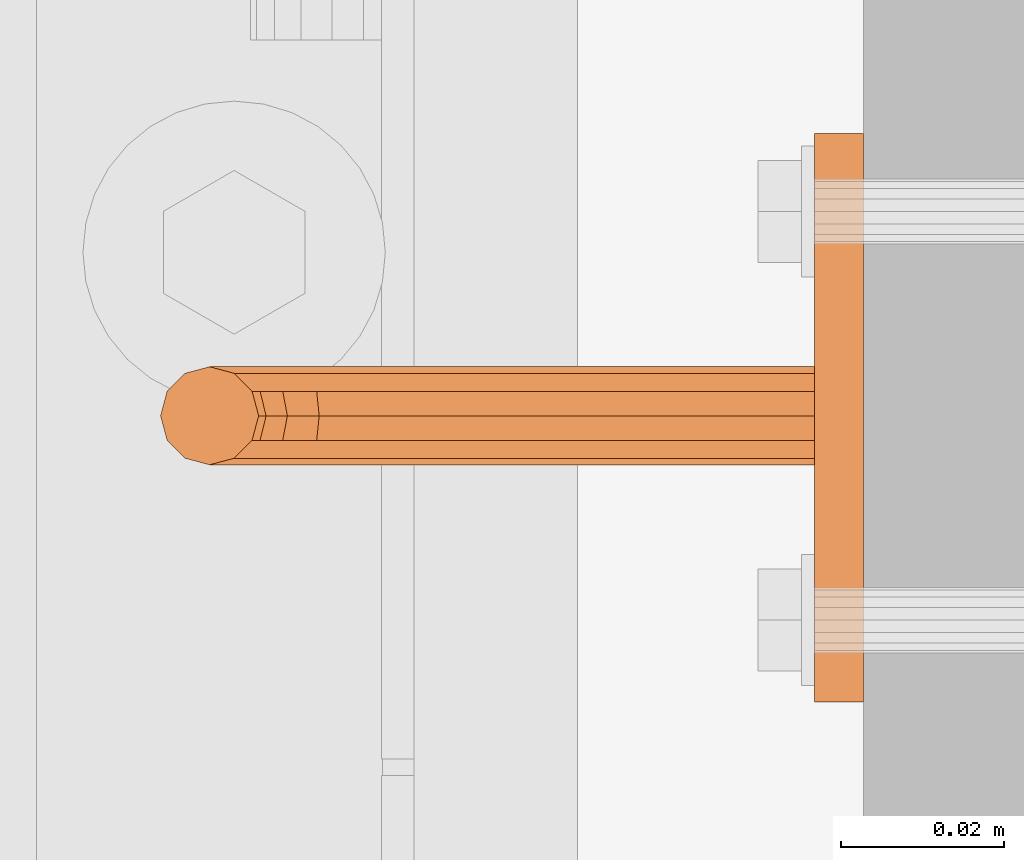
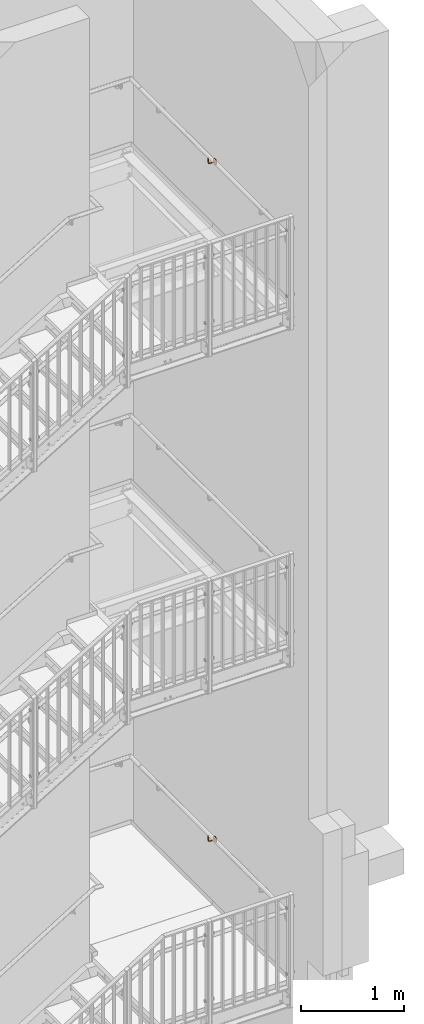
# One storey, part 389 of 410: 2 proxies.
"""IFC2X3 building model written with IfcOpenShell, lengths in millimetres."""

from ifc_helpers import new_model, entity, si_unit, converted_unit, origin_with_axes, place, context, project, spatial, faceted_brep, element, save


model = new_model("IFC2X3")

# Units and contexts
model_context = context("Model", 3, precision=1e-09, world=origin_with_axes())
ifc_project = project(units=[si_unit("LENGTHUNIT", "METRE", prefix="MILLI"), si_unit("AREAUNIT", "SQUARE_METRE"), si_unit("VOLUMEUNIT", "CUBIC_METRE"), converted_unit("PLANEANGLEUNIT", "DEGREE", entity("IfcPlaneAngleMeasure", 0.01745329), si_unit("PLANEANGLEUNIT", "RADIAN"), dimensions=[0, 0, 0, 0, 0, 0, 0])], contexts=[model_context])

# Site, building, storey
site_placement = place(None, origin_with_axes())
site = spatial("IfcSite", under=ifc_project, at=site_placement, Name="mKR Teilneubau & Sanierung BA1 - Ostfildern", CompositionType="ELEMENT")
building_placement = place(site_placement, origin_with_axes())
building = spatial("IfcBuilding", under=site, at=building_placement, Name="Struktur 1", CompositionType="ELEMENT")
storey_placement = place(building_placement, origin_with_axes())
storey = spatial("IfcBuildingStorey", under=building, at=storey_placement, Name="Default Storey", CompositionType="ELEMENT", Elevation=0.0)

# Proxies
proxy_1_placement = place(None, origin_with_axes())
element("IfcBuildingElementProxy", 1, at=proxy_1_placement, inside=storey, ObjectType="-", context=model_context, shape_type="Brep", body=[
    faceted_brep([(3289.999216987, 17051.680638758, 6659.725), (3283.999216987, 17051.680638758, 6659.725), (3283.999216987, 17052.250030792, 6657.6), (3289.999216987, 17052.250030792, 6657.6), (3283.999216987, 17003.856845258, 6686.900826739), (3283.999216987, 17014.408038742, 6691.529009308), (3283.999216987, 17025.890307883, 6692.480457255), (3283.999216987, 17037.059370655, 6689.652066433), (3283.999216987, 17046.704885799, 6683.350336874), (3283.999216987, 17053.781612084, 6674.258158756), (3283.999216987, 17057.522676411, 6663.36081066), (3283.999216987, 17057.522676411, 6651.83918934), (3283.999216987, 17053.781612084, 6640.941841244), (3283.999216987, 17046.704885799, 6631.849663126), (3283.999216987, 17037.059370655, 6625.547933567), (3283.999216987, 17025.890307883, 6622.719542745), (3283.999216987, 17014.408038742, 6623.670990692), (3283.999216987, 17003.856845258, 6628.299173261), (3283.999216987, 16995.380112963, 6636.102555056), (3283.999216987, 16989.896427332, 6646.235518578), (3283.999216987, 16988.000030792, 6657.6), (3283.999216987, 16989.896427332, 6668.964481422), (3283.999216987, 16995.380112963, 6679.097444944), (3283.999216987, 17050.125030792, 6661.280607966), (3283.999216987, 17048.000030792, 6661.85), (3283.999216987, 17045.875030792, 6661.280607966), (3283.999216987, 17044.319422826, 6659.725), (3283.999216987, 17043.750030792, 6657.6), (3283.999216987, 17044.319422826, 6655.475), (3283.999216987, 17045.875030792, 6653.919392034), (3283.999216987, 17048.000030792, 6653.35), (3283.999216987, 17050.125030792, 6653.919392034), (3283.999216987, 17051.680638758, 6655.475), (3283.999216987, 17001.680638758, 6659.725), (3283.999216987, 17000.125030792, 6661.280607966), (3283.999216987, 16998.000030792, 6661.85), (3283.999216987, 16995.875030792, 6661.280607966), (3283.999216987, 16994.319422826, 6659.725), (3283.999216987, 16993.750030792, 6657.6), (3283.999216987, 16994.319422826, 6655.475), (3283.999216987, 16995.875030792, 6653.919392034), (3283.999216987, 16998.000030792, 6653.35), (3283.999216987, 17000.125030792, 6653.919392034), (3283.999216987, 17001.680638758, 6655.475), (3283.999216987, 17002.250030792, 6657.6), (3289.999216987, 17050.125030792, 6661.280607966), (3289.999216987, 17003.856845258, 6628.299173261), (3289.999216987, 17014.408038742, 6623.670990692), (3289.999216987, 17025.890307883, 6622.719542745), (3289.999216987, 17037.059370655, 6625.547933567), (3289.999216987, 17046.704885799, 6631.849663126), (3289.999216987, 17053.781612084, 6640.941841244), (3289.999216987, 17057.522676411, 6651.83918934), (3289.999216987, 17057.522676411, 6663.36081066), (3289.999216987, 17053.781612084, 6674.258158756), (3289.999216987, 17046.704885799, 6683.350336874), (3289.999216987, 17037.059370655, 6689.652066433), (3289.999216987, 17025.890307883, 6692.480457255), (3289.999216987, 17014.408038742, 6691.529009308), (3289.999216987, 17003.856845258, 6686.900826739), (3289.999216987, 16995.380112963, 6679.097444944), (3289.999216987, 16989.896427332, 6668.964481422), (3289.999216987, 16988.000030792, 6657.6), (3289.999216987, 16989.896427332, 6646.235518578), (3289.999216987, 16995.380112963, 6636.102555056), (3289.999216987, 17051.680638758, 6655.475), (3289.999216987, 17050.125030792, 6653.919392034), (3289.999216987, 17048.000030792, 6653.35), (3289.999216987, 17045.875030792, 6653.919392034), (3289.999216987, 17044.319422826, 6655.475), (3289.999216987, 17043.750030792, 6657.6), (3289.999216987, 17044.319422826, 6659.725), (3289.999216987, 17045.875030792, 6661.280607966), (3289.999216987, 17048.000030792, 6661.85), (3289.999216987, 17001.680638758, 6655.475), (3289.999216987, 17000.125030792, 6653.919392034), (3289.999216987, 16998.000030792, 6653.35), (3289.999216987, 16995.875030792, 6653.919392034), (3289.999216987, 16994.319422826, 6655.475), (3289.999216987, 16993.750030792, 6657.6), (3289.999216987, 16994.319422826, 6659.725), (3289.999216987, 16995.875030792, 6661.280607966), (3289.999216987, 16998.000030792, 6661.85), (3289.999216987, 17000.125030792, 6661.280607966), (3289.999216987, 17001.680638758, 6659.725), (3289.999216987, 17002.250030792, 6657.6)], [[[0, 1, 2, 3]], [[4, 5, 6, 7, 8, 9, 10, 11, 12, 13, 14, 15, 16, 17, 18, 19, 20, 21, 22], [2, 1, 23, 24, 25, 26, 27, 28, 29, 30, 31, 32], [33, 34, 35, 36, 37, 38, 39, 40, 41, 42, 43, 44]], [[1, 0, 45, 23]], [[46, 47, 48, 49, 50, 51, 52, 53, 54, 55, 56, 57, 58, 59, 60, 61, 62, 63, 64], [0, 3, 65, 66, 67, 68, 69, 70, 71, 72, 73, 45], [74, 75, 76, 77, 78, 79, 80, 81, 82, 83, 84, 85]], [[3, 2, 32, 65]], [[10, 53, 52, 11]], [[65, 32, 31, 66]], [[23, 45, 73, 24]], [[53, 10, 9, 54]], [[66, 31, 30, 67]], [[11, 52, 51, 12]], [[24, 73, 72, 25]], [[8, 55, 54, 9]], [[67, 30, 29, 68]], [[55, 8, 7, 56]], [[50, 13, 12, 51]], [[25, 72, 71, 26]], [[13, 50, 49, 14]], [[68, 29, 28, 69]], [[26, 71, 70, 27]], [[56, 7, 6, 57]], [[69, 28, 27, 70]], [[14, 49, 48, 15]], [[57, 6, 5, 58]], [[44, 85, 84, 33]], [[15, 48, 47, 16]], [[85, 44, 43, 74]], [[33, 84, 83, 34]], [[58, 5, 4, 59]], [[16, 47, 46, 17]], [[74, 43, 42, 75]], [[34, 83, 82, 35]], [[59, 4, 22, 60]], [[17, 46, 64, 18]], [[75, 42, 41, 76]], [[35, 82, 81, 36]], [[60, 22, 21, 61]], [[18, 64, 63, 19]], [[76, 41, 40, 77]], [[20, 62, 61, 21]], [[36, 81, 80, 37]], [[62, 20, 19, 63]], [[77, 40, 39, 78]], [[37, 80, 79, 38]], [[78, 39, 38, 79]]]),
    faceted_brep([(3227.999216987, 17017.000030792, 6657.6), (3283.999216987, 17017.000030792, 6657.6), (3283.999216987, 17017.803878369, 6660.6), (3227.999216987, 17017.803878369, 6660.6), (3206.999216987, 17017.803878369, 6675.6), (3206.999216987, 17017.803878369, 6732.6), (3204.803064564, 17020.000030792, 6732.6), (3204.803064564, 17020.000030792, 6675.6), (3209.999216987, 17017.000030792, 6675.6), (3209.999216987, 17017.000030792, 6732.6), (3206.56876653, 17020.000030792, 6666.723216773), (3208.597746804, 17017.803878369, 6667.56364792), (3283.999216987, 17026.000030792, 6652.403847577), (3283.999216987, 17028.196183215, 6654.6), (3283.999216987, 17029.000030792, 6657.6), (3283.999216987, 17028.196183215, 6660.6), (3283.999216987, 17026.000030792, 6662.796152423), (3283.999216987, 17023.000030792, 6663.6), (3283.999216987, 17020.000030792, 6662.796152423), (3283.999216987, 17017.803878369, 6654.6), (3283.999216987, 17020.000030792, 6652.403847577), (3283.999216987, 17023.000030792, 6651.6), (3227.999216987, 17017.803878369, 6654.6), (3222.258965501, 17017.803878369, 6661.741807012), (3221.110915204, 17017.000030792, 6658.970168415), (3215.195369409, 17026.000030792, 6732.6), (3212.999216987, 17028.196183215, 6732.6), (3209.999216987, 17029.000030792, 6732.6), (3206.999216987, 17028.196183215, 6732.6), (3204.803064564, 17026.000030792, 6732.6), (3203.999216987, 17023.000030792, 6732.6), (3212.999216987, 17017.803878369, 6732.6), (3215.195369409, 17020.000030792, 6732.6), (3215.999216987, 17023.000030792, 6732.6), (3211.369385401, 17017.000030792, 6668.711698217), (3213.149974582, 17017.803878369, 6660.750757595), (3215.271294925, 17017.000030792, 6662.872077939), (3227.999216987, 17020.000030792, 6662.796152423), (3219.962864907, 17017.803878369, 6656.198529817), (3203.999216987, 17023.000030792, 6675.6), (3212.999216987, 17017.803878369, 6675.6), (3205.826108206, 17023.000030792, 6666.415597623), (3211.597060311, 17020.000030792, 6659.197843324), (3217.392615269, 17017.803878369, 6664.993398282), (3223.099396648, 17020.000030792, 6663.770787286), (3227.999216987, 17020.000030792, 6652.403847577), (3214.141023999, 17017.803878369, 6669.859748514), (3227.999216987, 17023.000030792, 6663.6), (3219.12243376, 17020.000030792, 6654.169549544), (3204.803064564, 17026.000030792, 6675.6), (3215.195369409, 17020.000030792, 6675.6), (3206.56876653, 17026.000030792, 6666.723216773), (3211.028654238, 17023.000030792, 6658.629437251), (3218.945529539, 17020.000030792, 6666.546312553), (3223.407015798, 17023.000030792, 6664.51344561), (3227.999216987, 17023.000030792, 6651.6), (3216.170004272, 17020.000030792, 6670.700179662), (3206.999216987, 17028.196183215, 6675.6), (3227.999216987, 17026.000030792, 6662.796152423), (3218.81481461, 17023.000030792, 6653.42689122), (3215.999216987, 17023.000030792, 6675.6), (3208.597746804, 17028.196183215, 6667.56364792), (3211.597060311, 17026.000030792, 6659.197843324), (3219.513935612, 17023.000030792, 6667.114718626), (3223.099396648, 17026.000030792, 6663.770787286), (3227.999216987, 17026.000030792, 6652.403847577), (3216.912662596, 17023.000030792, 6671.007798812), (3209.999216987, 17029.000030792, 6675.6), (3227.999216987, 17028.196183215, 6660.6), (3219.12243376, 17026.000030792, 6654.169549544), (3215.195369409, 17026.000030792, 6675.6), (3212.999216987, 17028.196183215, 6675.6), (3211.369385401, 17029.000030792, 6668.711698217), (3213.149974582, 17028.196183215, 6660.750757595), (3218.945529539, 17026.000030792, 6666.546312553), (3222.258965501, 17028.196183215, 6661.741807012), (3227.999216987, 17029.000030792, 6657.6), (3227.999216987, 17028.196183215, 6654.6), (3216.170004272, 17026.000030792, 6670.700179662), (3219.962864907, 17028.196183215, 6656.198529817), (3214.141023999, 17028.196183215, 6669.859748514), (3215.271294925, 17029.000030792, 6662.872077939), (3221.110915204, 17029.000030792, 6658.970168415), (3217.392615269, 17028.196183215, 6664.993398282)], [[[0, 1, 2, 3]], [[4, 5, 6, 7]], [[5, 4, 8, 9]], [[4, 7, 10, 11]], [[12, 13, 14, 15, 16, 17, 18, 2, 1, 19, 20, 21]], [[1, 0, 22, 19]], [[0, 3, 23, 24]], [[25, 26, 27, 28, 29, 30, 6, 5, 9, 31, 32, 33]], [[11, 34, 8, 4]], [[35, 36, 34, 11]], [[3, 2, 18, 37]], [[24, 38, 22, 0]], [[36, 35, 38, 24]], [[7, 6, 30, 39]], [[9, 8, 40, 31]], [[7, 39, 41, 10]], [[11, 10, 42, 35]], [[24, 23, 43, 36]], [[3, 37, 44, 23]], [[19, 22, 45, 20]], [[36, 43, 46, 34]], [[34, 46, 40, 8]], [[37, 18, 17, 47]], [[38, 48, 45, 22]], [[35, 42, 48, 38]], [[39, 30, 29, 49]], [[31, 40, 50, 32]], [[39, 49, 51, 41]], [[10, 41, 52, 42]], [[23, 44, 53, 43]], [[37, 47, 54, 44]], [[20, 45, 55, 21]], [[43, 53, 56, 46]], [[46, 56, 50, 40]], [[49, 29, 28, 57]], [[47, 17, 16, 58]], [[48, 59, 55, 45]], [[42, 52, 59, 48]], [[32, 50, 60, 33]], [[49, 57, 61, 51]], [[41, 51, 62, 52]], [[44, 54, 63, 53]], [[47, 58, 64, 54]], [[21, 55, 65, 12]], [[56, 66, 60, 50]], [[53, 63, 66, 56]], [[57, 28, 27, 67]], [[58, 16, 15, 68]], [[59, 69, 65, 55]], [[52, 62, 69, 59]], [[33, 60, 70, 25]], [[26, 71, 67, 27]], [[25, 70, 71, 26]], [[57, 67, 72, 61]], [[51, 61, 73, 62]], [[54, 64, 74, 63]], [[58, 68, 75, 64]], [[14, 76, 68, 15]], [[13, 77, 76, 14]], [[12, 65, 77, 13]], [[66, 78, 70, 60]], [[63, 74, 78, 66]], [[69, 79, 77, 65]], [[62, 73, 79, 69]], [[67, 71, 80, 72]], [[71, 70, 78, 80]], [[61, 72, 81, 73]], [[68, 76, 82, 75]], [[64, 75, 83, 74]], [[76, 77, 79, 82]], [[74, 83, 80, 78]], [[73, 81, 82, 79]], [[72, 80, 83, 81]], [[75, 82, 81, 83]]]),
])
proxy_2_placement = place(None, origin_with_axes())
element("IfcBuildingElementProxy", 2, at=proxy_2_placement, inside=storey, ObjectType="-", context=model_context, shape_type="Brep", body=[
    faceted_brep([(3289.999216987, 17051.680638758, -1410.875), (3283.999216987, 17051.680638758, -1410.875), (3283.999216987, 17052.250030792, -1413.0), (3289.999216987, 17052.250030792, -1413.0), (3283.999216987, 17003.856845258, -1383.699173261), (3283.999216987, 17014.408038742, -1379.070990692), (3283.999216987, 17025.890307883, -1378.119542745), (3283.999216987, 17037.059370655, -1380.947933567), (3283.999216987, 17046.704885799, -1387.249663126), (3283.999216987, 17053.781612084, -1396.341841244), (3283.999216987, 17057.522676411, -1407.23918934), (3283.999216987, 17057.522676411, -1418.76081066), (3283.999216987, 17053.781612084, -1429.658158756), (3283.999216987, 17046.704885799, -1438.750336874), (3283.999216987, 17037.059370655, -1445.052066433), (3283.999216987, 17025.890307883, -1447.880457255), (3283.999216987, 17014.408038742, -1446.929009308), (3283.999216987, 17003.856845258, -1442.300826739), (3283.999216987, 16995.380112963, -1434.497444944), (3283.999216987, 16989.896427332, -1424.364481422), (3283.999216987, 16988.000030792, -1413.0), (3283.999216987, 16989.896427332, -1401.635518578), (3283.999216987, 16995.380112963, -1391.502555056), (3283.999216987, 17050.125030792, -1409.319392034), (3283.999216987, 17048.000030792, -1408.75), (3283.999216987, 17045.875030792, -1409.319392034), (3283.999216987, 17044.319422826, -1410.875), (3283.999216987, 17043.750030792, -1413.0), (3283.999216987, 17044.319422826, -1415.125), (3283.999216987, 17045.875030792, -1416.680607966), (3283.999216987, 17048.000030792, -1417.25), (3283.999216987, 17050.125030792, -1416.680607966), (3283.999216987, 17051.680638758, -1415.125), (3283.999216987, 17001.680638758, -1410.875), (3283.999216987, 17000.125030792, -1409.319392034), (3283.999216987, 16998.000030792, -1408.75), (3283.999216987, 16995.875030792, -1409.319392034), (3283.999216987, 16994.319422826, -1410.875), (3283.999216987, 16993.750030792, -1413.0), (3283.999216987, 16994.319422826, -1415.125), (3283.999216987, 16995.875030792, -1416.680607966), (3283.999216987, 16998.000030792, -1417.25), (3283.999216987, 17000.125030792, -1416.680607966), (3283.999216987, 17001.680638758, -1415.125), (3283.999216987, 17002.250030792, -1413.0), (3289.999216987, 17050.125030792, -1409.319392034), (3289.999216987, 17003.856845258, -1442.300826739), (3289.999216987, 17014.408038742, -1446.929009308), (3289.999216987, 17025.890307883, -1447.880457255), (3289.999216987, 17037.059370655, -1445.052066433), (3289.999216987, 17046.704885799, -1438.750336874), (3289.999216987, 17053.781612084, -1429.658158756), (3289.999216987, 17057.522676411, -1418.76081066), (3289.999216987, 17057.522676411, -1407.23918934), (3289.999216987, 17053.781612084, -1396.341841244), (3289.999216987, 17046.704885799, -1387.249663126), (3289.999216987, 17037.059370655, -1380.947933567), (3289.999216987, 17025.890307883, -1378.119542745), (3289.999216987, 17014.408038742, -1379.070990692), (3289.999216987, 17003.856845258, -1383.699173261), (3289.999216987, 16995.380112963, -1391.502555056), (3289.999216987, 16989.896427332, -1401.635518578), (3289.999216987, 16988.000030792, -1413.0), (3289.999216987, 16989.896427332, -1424.364481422), (3289.999216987, 16995.380112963, -1434.497444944), (3289.999216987, 17051.680638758, -1415.125), (3289.999216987, 17050.125030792, -1416.680607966), (3289.999216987, 17048.000030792, -1417.25), (3289.999216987, 17045.875030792, -1416.680607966), (3289.999216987, 17044.319422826, -1415.125), (3289.999216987, 17043.750030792, -1413.0), (3289.999216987, 17044.319422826, -1410.875), (3289.999216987, 17045.875030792, -1409.319392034), (3289.999216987, 17048.000030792, -1408.75), (3289.999216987, 17001.680638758, -1415.125), (3289.999216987, 17000.125030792, -1416.680607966), (3289.999216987, 16998.000030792, -1417.25), (3289.999216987, 16995.875030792, -1416.680607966), (3289.999216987, 16994.319422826, -1415.125), (3289.999216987, 16993.750030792, -1413.0), (3289.999216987, 16994.319422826, -1410.875), (3289.999216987, 16995.875030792, -1409.319392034), (3289.999216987, 16998.000030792, -1408.75), (3289.999216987, 17000.125030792, -1409.319392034), (3289.999216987, 17001.680638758, -1410.875), (3289.999216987, 17002.250030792, -1413.0)], [[[0, 1, 2, 3]], [[4, 5, 6, 7, 8, 9, 10, 11, 12, 13, 14, 15, 16, 17, 18, 19, 20, 21, 22], [2, 1, 23, 24, 25, 26, 27, 28, 29, 30, 31, 32], [33, 34, 35, 36, 37, 38, 39, 40, 41, 42, 43, 44]], [[1, 0, 45, 23]], [[46, 47, 48, 49, 50, 51, 52, 53, 54, 55, 56, 57, 58, 59, 60, 61, 62, 63, 64], [0, 3, 65, 66, 67, 68, 69, 70, 71, 72, 73, 45], [74, 75, 76, 77, 78, 79, 80, 81, 82, 83, 84, 85]], [[3, 2, 32, 65]], [[10, 53, 52, 11]], [[65, 32, 31, 66]], [[23, 45, 73, 24]], [[53, 10, 9, 54]], [[66, 31, 30, 67]], [[11, 52, 51, 12]], [[24, 73, 72, 25]], [[8, 55, 54, 9]], [[67, 30, 29, 68]], [[55, 8, 7, 56]], [[50, 13, 12, 51]], [[25, 72, 71, 26]], [[13, 50, 49, 14]], [[68, 29, 28, 69]], [[26, 71, 70, 27]], [[56, 7, 6, 57]], [[69, 28, 27, 70]], [[14, 49, 48, 15]], [[57, 6, 5, 58]], [[44, 85, 84, 33]], [[15, 48, 47, 16]], [[85, 44, 43, 74]], [[33, 84, 83, 34]], [[58, 5, 4, 59]], [[16, 47, 46, 17]], [[74, 43, 42, 75]], [[34, 83, 82, 35]], [[59, 4, 22, 60]], [[17, 46, 64, 18]], [[75, 42, 41, 76]], [[35, 82, 81, 36]], [[60, 22, 21, 61]], [[18, 64, 63, 19]], [[76, 41, 40, 77]], [[20, 62, 61, 21]], [[36, 81, 80, 37]], [[62, 20, 19, 63]], [[77, 40, 39, 78]], [[37, 80, 79, 38]], [[78, 39, 38, 79]]]),
    faceted_brep([(3227.999216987, 17017.000030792, -1413.0), (3283.999216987, 17017.000030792, -1413.0), (3283.999216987, 17017.803878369, -1410.0), (3227.999216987, 17017.803878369, -1410.0), (3206.999216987, 17017.803878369, -1395.0), (3206.999216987, 17017.803878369, -1338.0), (3204.803064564, 17020.000030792, -1338.0), (3204.803064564, 17020.000030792, -1395.0), (3209.999216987, 17017.000030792, -1395.0), (3209.999216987, 17017.000030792, -1338.0), (3206.56876653, 17020.000030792, -1403.876783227), (3208.597746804, 17017.803878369, -1403.03635208), (3283.999216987, 17026.000030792, -1418.196152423), (3283.999216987, 17028.196183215, -1416.0), (3283.999216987, 17029.000030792, -1413.0), (3283.999216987, 17028.196183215, -1410.0), (3283.999216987, 17026.000030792, -1407.803847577), (3283.999216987, 17023.000030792, -1407.0), (3283.999216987, 17020.000030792, -1407.803847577), (3283.999216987, 17017.803878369, -1416.0), (3283.999216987, 17020.000030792, -1418.196152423), (3283.999216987, 17023.000030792, -1419.0), (3227.999216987, 17017.803878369, -1416.0), (3222.258965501, 17017.803878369, -1408.858192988), (3221.110915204, 17017.000030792, -1411.629831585), (3215.195369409, 17026.000030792, -1338.0), (3212.999216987, 17028.196183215, -1338.0), (3209.999216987, 17029.000030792, -1338.0), (3206.999216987, 17028.196183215, -1338.0), (3204.803064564, 17026.000030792, -1338.0), (3203.999216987, 17023.000030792, -1338.0), (3212.999216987, 17017.803878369, -1338.0), (3215.195369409, 17020.000030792, -1338.0), (3215.999216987, 17023.000030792, -1338.0), (3211.369385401, 17017.000030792, -1401.888301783), (3213.149974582, 17017.803878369, -1409.849242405), (3215.271294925, 17017.000030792, -1407.727922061), (3227.999216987, 17020.000030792, -1407.803847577), (3219.962864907, 17017.803878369, -1414.401470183), (3203.999216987, 17023.000030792, -1395.0), (3212.999216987, 17017.803878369, -1395.0), (3205.826108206, 17023.000030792, -1404.184402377), (3211.597060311, 17020.000030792, -1411.402156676), (3217.392615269, 17017.803878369, -1405.606601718), (3223.099396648, 17020.000030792, -1406.829212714), (3227.999216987, 17020.000030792, -1418.196152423), (3214.141023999, 17017.803878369, -1400.740251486), (3227.999216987, 17023.000030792, -1407.0), (3219.12243376, 17020.000030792, -1416.430450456), (3204.803064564, 17026.000030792, -1395.0), (3215.195369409, 17020.000030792, -1395.0), (3206.56876653, 17026.000030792, -1403.876783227), (3211.028654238, 17023.000030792, -1411.970562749), (3218.945529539, 17020.000030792, -1404.053687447), (3223.407015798, 17023.000030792, -1406.08655439), (3227.999216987, 17023.000030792, -1419.0), (3216.170004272, 17020.000030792, -1399.899820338), (3206.999216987, 17028.196183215, -1395.0), (3227.999216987, 17026.000030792, -1407.803847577), (3218.81481461, 17023.000030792, -1417.17310878), (3215.999216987, 17023.000030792, -1395.0), (3208.597746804, 17028.196183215, -1403.03635208), (3211.597060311, 17026.000030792, -1411.402156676), (3219.513935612, 17023.000030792, -1403.485281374), (3223.099396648, 17026.000030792, -1406.829212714), (3227.999216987, 17026.000030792, -1418.196152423), (3216.912662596, 17023.000030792, -1399.592201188), (3209.999216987, 17029.000030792, -1395.0), (3227.999216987, 17028.196183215, -1410.0), (3219.12243376, 17026.000030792, -1416.430450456), (3215.195369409, 17026.000030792, -1395.0), (3212.999216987, 17028.196183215, -1395.0), (3211.369385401, 17029.000030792, -1401.888301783), (3213.149974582, 17028.196183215, -1409.849242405), (3218.945529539, 17026.000030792, -1404.053687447), (3222.258965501, 17028.196183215, -1408.858192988), (3227.999216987, 17029.000030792, -1413.0), (3227.999216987, 17028.196183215, -1416.0), (3216.170004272, 17026.000030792, -1399.899820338), (3219.962864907, 17028.196183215, -1414.401470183), (3214.141023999, 17028.196183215, -1400.740251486), (3215.271294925, 17029.000030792, -1407.727922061), (3221.110915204, 17029.000030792, -1411.629831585), (3217.392615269, 17028.196183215, -1405.606601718)], [[[0, 1, 2, 3]], [[4, 5, 6, 7]], [[5, 4, 8, 9]], [[4, 7, 10, 11]], [[12, 13, 14, 15, 16, 17, 18, 2, 1, 19, 20, 21]], [[1, 0, 22, 19]], [[0, 3, 23, 24]], [[25, 26, 27, 28, 29, 30, 6, 5, 9, 31, 32, 33]], [[11, 34, 8, 4]], [[35, 36, 34, 11]], [[3, 2, 18, 37]], [[24, 38, 22, 0]], [[36, 35, 38, 24]], [[7, 6, 30, 39]], [[9, 8, 40, 31]], [[7, 39, 41, 10]], [[11, 10, 42, 35]], [[24, 23, 43, 36]], [[3, 37, 44, 23]], [[19, 22, 45, 20]], [[36, 43, 46, 34]], [[34, 46, 40, 8]], [[37, 18, 17, 47]], [[38, 48, 45, 22]], [[35, 42, 48, 38]], [[39, 30, 29, 49]], [[31, 40, 50, 32]], [[39, 49, 51, 41]], [[10, 41, 52, 42]], [[23, 44, 53, 43]], [[37, 47, 54, 44]], [[20, 45, 55, 21]], [[43, 53, 56, 46]], [[46, 56, 50, 40]], [[49, 29, 28, 57]], [[47, 17, 16, 58]], [[48, 59, 55, 45]], [[42, 52, 59, 48]], [[32, 50, 60, 33]], [[49, 57, 61, 51]], [[41, 51, 62, 52]], [[44, 54, 63, 53]], [[47, 58, 64, 54]], [[21, 55, 65, 12]], [[56, 66, 60, 50]], [[53, 63, 66, 56]], [[57, 28, 27, 67]], [[58, 16, 15, 68]], [[59, 69, 65, 55]], [[52, 62, 69, 59]], [[33, 60, 70, 25]], [[26, 71, 67, 27]], [[25, 70, 71, 26]], [[57, 67, 72, 61]], [[51, 61, 73, 62]], [[54, 64, 74, 63]], [[58, 68, 75, 64]], [[14, 76, 68, 15]], [[13, 77, 76, 14]], [[12, 65, 77, 13]], [[66, 78, 70, 60]], [[63, 74, 78, 66]], [[69, 79, 77, 65]], [[62, 73, 79, 69]], [[67, 71, 80, 72]], [[71, 70, 78, 80]], [[61, 72, 81, 73]], [[68, 76, 82, 75]], [[64, 75, 83, 74]], [[76, 77, 79, 82]], [[74, 83, 80, 78]], [[73, 81, 82, 79]], [[72, 80, 83, 81]], [[75, 82, 81, 83]]]),
])

save(model, "model.ifc")
